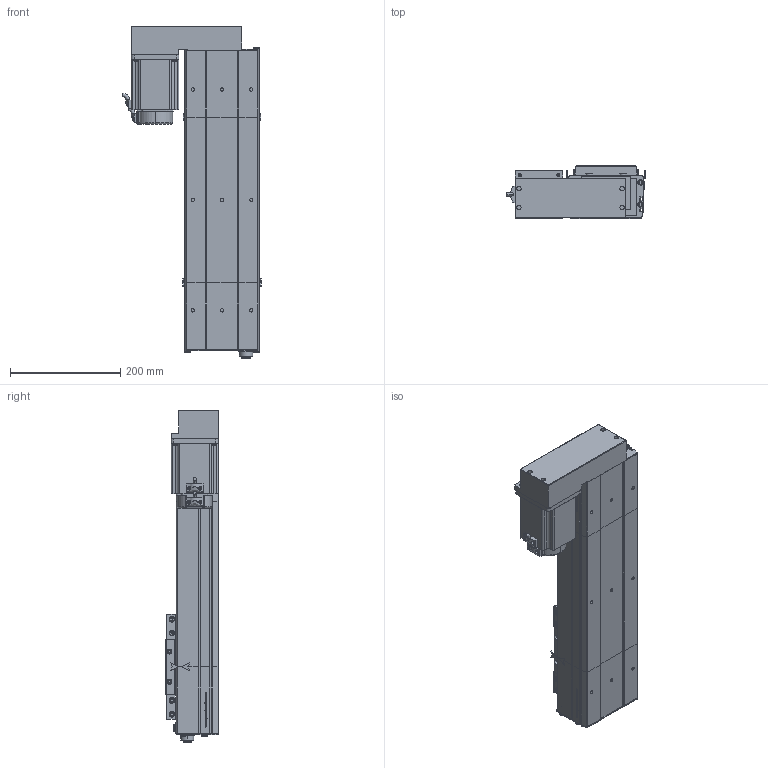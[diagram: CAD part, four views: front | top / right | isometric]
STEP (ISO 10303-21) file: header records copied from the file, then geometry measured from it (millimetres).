
FILE_DESCRIPTION (( 'STEP AP214' ), '1' );
FILE_NAME ('D14 CSH BR S300.STEP', '2010-06-29T15:01:45', ( 'Conseil Régional Haute-Normandie' ), ( 'Conseil Régional Haute-Normandie' ), 'SwSTEP 2.0', 'SolidWorks 2010', '' );
FILE_SCHEMA (( 'AUTOMOTIVE_DESIGN' ));
Length unit declared in the file: millimetre
Products named in the file (26): chariot D14; chariot supérieur D14; vis CHC M7; vis CHC M5; charriot inférieur D14; couvercle tail; Head D14  CSH BR; avant GMB 90 100 310; plaque de bout head d14 BR; corps tail d14; Tail D14; couvercle head d14; D14 CSH BR S300; Conecteur2_Default; couvercle CSH course S300; Vis CHC M8; plaque de maintient D14; codeur GMB 90 100 310; corps GMB 90 100 310; corps  CSH 300; Course CSH S300; corps head d14; plaque de bout tail d14; vis CHC M5.5; Conecteur_Default; GMB 90 100 310
Assembly tree (48 placements, depth 4):
  D14 CSH BR S300
    Tail D14
      Vis CHC M8  x2
      couvercle tail
      vis CHC M7  x4
      plaque de bout tail d14
      corps tail d14
      plaque de maintient D14
    Head D14  CSH BR
      vis CHC M7  x2
      vis CHC M5.5  x4
      Vis CHC M8  x2
      plaque de maintient D14
      corps head d14
      plaque de bout head d14 BR
      GMB 90 100 310
        Conecteur2_Default
        codeur GMB 90 100 310
        corps GMB 90 100 310
        Conecteur_Default
        avant GMB 90 100 310
      couvercle head d14
    chariot D14
      charriot inférieur D14
      vis CHC M7  x8
      chariot supérieur D14
      vis CHC M5  x4
    Course CSH S300
      corps  CSH 300
      couvercle CSH course S300
Bounding box: 250.75 x 95.75 x 601.3 mm (x, y, z)
Volume: 3183955.1 mm3; surface area: 782791.5 mm2
Topology: 49 solids, 49 shells, 2426 faces, 6221 edges, 4100 vertices
Faces by surface type: plane 1375, bspline 538, cylinder 400, torus 61, cone 52
Entity records: 106796 total; most frequent: CARTESIAN_POINT 57861, ORIENTED_EDGE 10694, DIRECTION 7952, EDGE_CURVE 5347, VECTOR 3618, LINE 3618, VERTEX_POINT 3548, EDGE_LOOP 2281
